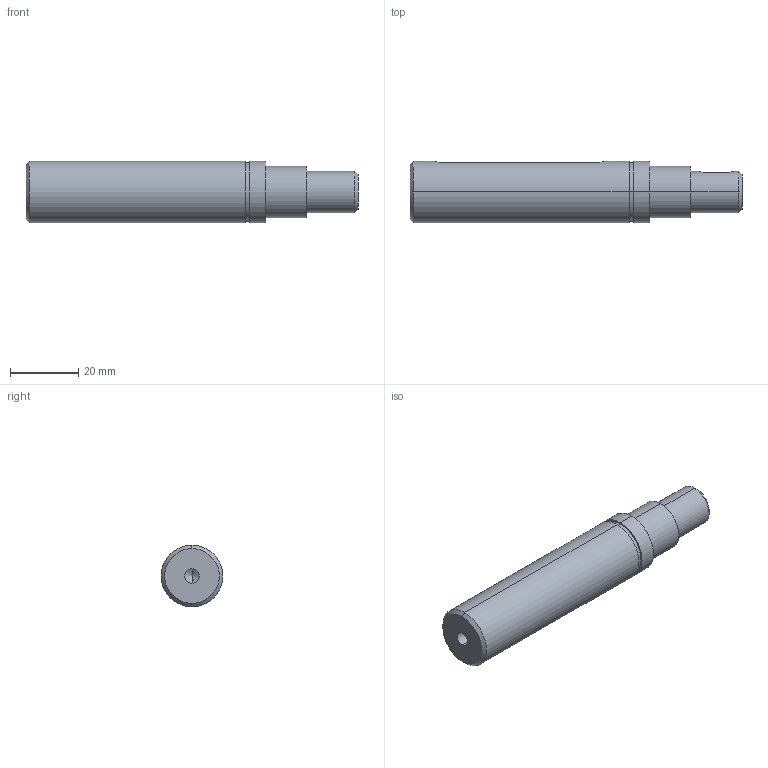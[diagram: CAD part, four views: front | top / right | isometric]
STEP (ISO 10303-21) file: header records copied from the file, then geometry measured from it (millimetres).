
FILE_DESCRIPTION (( 'STEP AP203' ), '1' );
FILE_NAME ('627.001.009.STEP', '2013-01-29T10:37:02', ( 'Alusic' ), ( 'Alusic' ), 'SwSTEP 2.0', 'SolidWorks 2011', '' );
FILE_SCHEMA (( 'CONFIG_CONTROL_DESIGN' ));
Length unit declared in the file: millimetre
Products named in the file (1): 627.001.009
Bounding box: 97 x 18 x 18 mm (x, y, z)
Volume: 20018 mm3; surface area: 6404.3 mm2
Topology: 1 solids, 1 shells, 38 faces, 82 edges, 50 vertices
Faces by surface type: cylinder 18, plane 12, cone 8
Entity records: 1199 total; most frequent: CARTESIAN_POINT 287, DIRECTION 188, ORIENTED_EDGE 156, EDGE_CURVE 78, AXIS2_PLACEMENT_3D 75, VERTEX_POINT 50, EDGE_LOOP 46, ADVANCED_FACE 38
